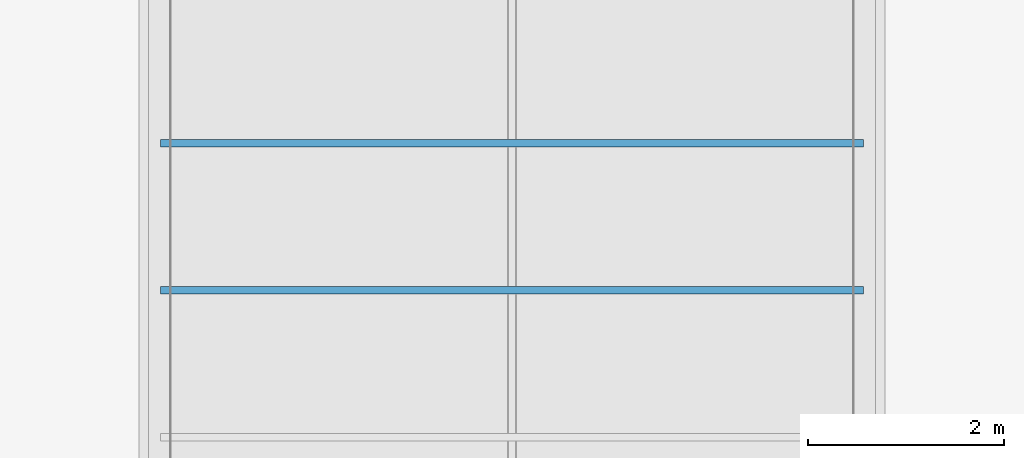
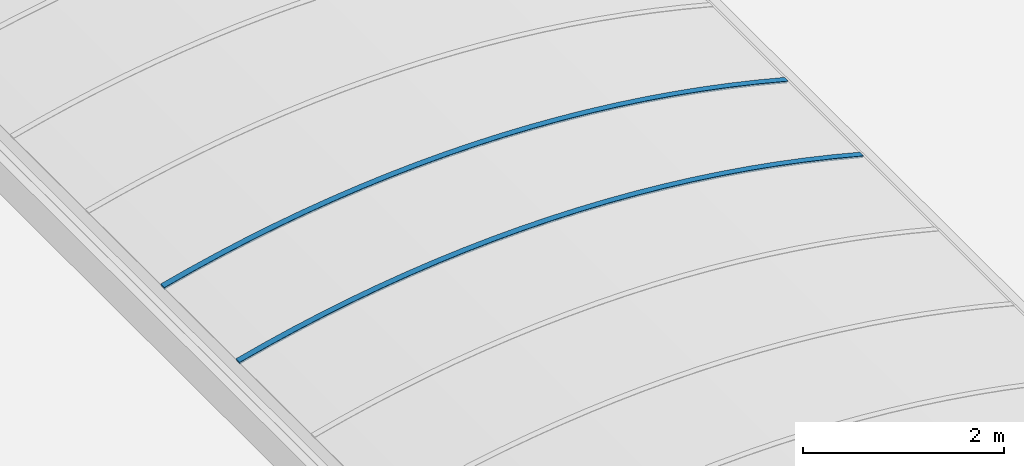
# One storey, part 44 of 81: 2 beams.
"""IFC2X3 building model written with IfcOpenShell, lengths in millimetres."""

import ifcopenshell
import ifcopenshell.guid

model = None  # the IFC model being written
_history = None  # IfcOwnerHistory: only IFC2X3 demands one
_inside = {}  # id of a spatial element -> (the spatial element, [elements in it])
_under = {}  # id of a project, library or spatial element -> (it, [spatial elements below it])
_declared = {}  # id of a project -> (the project, [libraries it declares])
_typed = {}  # id of a type object -> (the type object, [elements of that type])
_made_of = {}  # id of a material, layer set ... -> (it, [elements and type objects made of it])


def new_model(schema):
    """Start an empty IFC model of exactly this schema.

    Asked for "IFC4X3", IfcOpenShell would pick the latest addendum, in which some entities
    have other attributes; the version numbers below select the first issue.
    IFC2X3 requires an IfcOwnerHistory on every rooted entity: one is made here for all.
    """
    global model, _history
    if schema == "IFC4X3":
        model = ifcopenshell.file(schema_version=(4, 3, 0, 0))
    else:
        model = ifcopenshell.file(schema=schema)
    _inside.clear()
    _under.clear()
    _declared.clear()
    _typed.clear()
    _made_of.clear()
    _history = None
    if model.schema == "IFC2X3":
        org = make("IfcOrganization", Name="unknown")
        user = make(
            "IfcPersonAndOrganization",
            ThePerson=make("IfcPerson", FamilyName="unknown"),
            TheOrganization=org,
        )
        app = make(
            "IfcApplication",
            ApplicationDeveloper=org,
            Version="unknown",
            ApplicationFullName="unknown",
            ApplicationIdentifier="unknown",
        )
        _history = make(
            "IfcOwnerHistory",
            OwningUser=user,
            OwningApplication=app,
            ChangeAction="ADDED",
            CreationDate=0,
        )
    return model


def make(cls, **values):
    """One entity of the class cls with the attributes given. An attribute that is None is left unset."""
    return model.create_entity(
        cls, **{name: value for name, value in values.items() if value is not None}
    )


def entity(cls, *values):
    """Any entity or typed value of the class cls, its attributes in the order of the schema. None: left unset."""
    e = model.create_entity(cls)
    for i, value in enumerate(values):
        if value is not None:
            e[i] = value
    return e


def rooted(cls, **values):
    """An entity with a GlobalId (a new one), such as an element, a storey or a relation."""
    return make(cls, GlobalId=ifcopenshell.guid.new(), OwnerHistory=_history, **values)


def si_unit(unit_type, name, prefix=None):
    """IfcSIUnit, for example si_unit("LENGTHUNIT", "METRE", prefix="MILLI")."""
    return make("IfcSIUnit", UnitType=unit_type, Prefix=prefix, Name=name)


def converted_unit(unit_type, name, factor, base, dimensions=None, offset=None):
    """IfcConversionBasedUnit, such as the inch: factor (a typed value) times the base unit."""
    return make(
        "IfcConversionBasedUnit"
        if offset is None
        else "IfcConversionBasedUnitWithOffset",
        ConversionOffset=offset,
        Dimensions=None
        if dimensions is None
        else entity("IfcDimensionalExponents", *dimensions),
        UnitType=unit_type,
        Name=name,
        ConversionFactor=make(
            "IfcMeasureWithUnit", ValueComponent=factor, UnitComponent=base
        ),
    )


def derived_unit(unit_type, elements):
    """IfcDerivedUnit: a product of units, each with its exponent."""
    return make(
        "IfcDerivedUnit",
        Elements=[
            make("IfcDerivedUnitElement", Unit=unit, Exponent=power)
            for unit, power in elements
        ],
        UnitType=unit_type,
    )


def money_unit(currency):
    """IfcMonetaryUnit."""
    return make("IfcMonetaryUnit", Currency=currency)


def assignment(units):
    """IfcUnitAssignment: the units of a project."""
    return None if units is None else make("IfcUnitAssignment", Units=units)


def point(xyz):
    """IfcCartesianPoint."""
    return None if xyz is None else make("IfcCartesianPoint", Coordinates=xyz)


def direction(xyz):
    """IfcDirection."""
    return None if xyz is None else make("IfcDirection", DirectionRatios=xyz)


def frame(location, z_axis=None, x_axis=None):
    """IfcAxis2Placement3D, a coordinate frame: its origin and axes. An axis left out is left unset."""
    return make(
        "IfcAxis2Placement3D",
        Location=point(location),
        Axis=direction(z_axis),
        RefDirection=direction(x_axis),
    )


def origin_with_axes():
    """The frame at (0, 0, 0) with the z axis (0, 0, 1) and the x axis (1, 0, 0) written out."""
    return frame((0.0, 0.0, 0.0), z_axis=(0.0, 0.0, 1.0), x_axis=(1.0, 0.0, 0.0))


def place(relative_to, where):
    """IfcLocalPlacement: puts the frame where relative to a parent placement (None: the world)."""
    return make(
        "IfcLocalPlacement", PlacementRelTo=relative_to, RelativePlacement=where
    )


def context(
    kind, dimensions, precision=None, world=None, true_north=None, identifier=None
):
    """IfcGeometricRepresentationContext, for example the 3D "Model" context."""
    return make(
        "IfcGeometricRepresentationContext",
        ContextIdentifier=identifier,
        ContextType=kind,
        CoordinateSpaceDimension=dimensions,
        Precision=precision,
        WorldCoordinateSystem=world,
        TrueNorth=true_north,
    )


def subcontext(parent, identifier, kind, view, scale=None):
    """IfcGeometricRepresentationSubContext, for example "Body" below "Model"."""
    return make(
        "IfcGeometricRepresentationSubContext",
        ContextIdentifier=identifier,
        ContextType=kind,
        ParentContext=parent,
        TargetScale=scale,
        TargetView=view,
    )


def project(units=None, contexts=None):
    """IfcProject with its units and contexts."""
    return rooted(
        "IfcProject",
        Name="project",
        RepresentationContexts=contexts,
        UnitsInContext=assignment(units),
    )


def spatial(cls, under=None, at=None, **own):
    """A site, building, storey or space (cls), placed at a placement, below another one or the project."""
    s = rooted(cls, ObjectPlacement=at, **own)
    if under is not None:
        _under.setdefault(under.id(), (under, []))[1].append(s)
    return s


def faces_of(points, faces, orient=None, outer=None):
    """IfcFace entities. A face is a list of loops; a loop is a list of indices into points, from 0.

    orient and outer hold one flag for each loop. By default every Orientation is true, the
    first loop of a face is its IfcFaceOuterBound and the others are IfcFaceBound.
    """
    made = []
    for i, loops in enumerate(faces):
        bounds = []
        for j, loop in enumerate(loops):
            is_outer = j == 0 if outer is None else outer[i][j]
            bounds.append(
                make(
                    "IfcFaceOuterBound" if is_outer else "IfcFaceBound",
                    Bound=make("IfcPolyLoop", Polygon=[points[k] for k in loop]),
                    Orientation=True if orient is None else orient[i][j],
                )
            )
        made.append(make("IfcFace", Bounds=bounds))
    return made


def faceted_brep(points, faces, orient=None, outer=None, voids=None):
    """IfcFacetedBrep: a solid bounded by flat faces; with voids (closed shells), ...WithVoids."""
    shared = [point(p) for p in points]
    hull = make("IfcClosedShell", CfsFaces=faces_of(shared, faces, orient, outer))
    if voids is None:
        return make("IfcFacetedBrep", Outer=hull)
    return make(
        "IfcFacetedBrepWithVoids",
        Outer=hull,
        Voids=[
            make(cls, CfsFaces=faces_of(shared, fs, o, b)) for cls, fs, o, b in voids
        ],
    )


def shape(context_of_items, identifier, shape_type, items):
    """IfcShapeRepresentation: the items that make up one representation, for example the "Body"."""
    return make(
        "IfcShapeRepresentation",
        ContextOfItems=context_of_items,
        RepresentationIdentifier=identifier,
        RepresentationType=shape_type,
        Items=items,
    )


def material(Name=None, Category=None):
    """IfcMaterial."""
    return make("IfcMaterial", Name=Name, Category=Category)


def material_list(materials):
    """IfcMaterialList."""
    return make("IfcMaterialList", Materials=materials)


def made_of(thing, what):
    """Note that an element or type object is made of a material, layer set ...; save() writes the relation."""
    if what is not None:
        _made_of.setdefault(what.id(), (what, []))[1].append(thing)
    return thing


def type_object(cls, material=None, **own):
    """A type object (cls), such as IfcWallType, which elements share."""
    return made_of(rooted(cls, **own), material)


def element(
    cls,
    number,
    at=None,
    inside=None,
    cuts=None,
    type_object=None,
    material=None,
    context=None,
    identifier="Body",
    shape_type=None,
    held_by="IfcProductDefinitionShape",
    body=None,
    shapes=None,
    **own,
):
    """One element of the class cls, such as IfcWall. Its Tag is "e" and its number.

    at: its placement. inside: the storey or other place that contains it. cuts: it is an
    opening in that element (IfcRelVoidsElement). A single representation is given by context,
    identifier, shape_type and body (its items); several are given by shapes. held_by: the class
    of the entity that holds the representations. save() writes the other relations.
    """
    e = rooted(cls, Tag="e%d" % number, ObjectPlacement=at, **own)
    if body is not None:
        shapes = [shape(context, identifier, shape_type, body)]
    if shapes is not None:
        e.Representation = make(held_by, Representations=shapes)
    if inside is not None:
        _inside.setdefault(inside.id(), (inside, []))[1].append(e)
    if cuts is not None:
        rooted(
            "IfcRelVoidsElement", RelatingBuildingElement=cuts, RelatedOpeningElement=e
        )
    if type_object is not None:
        _typed.setdefault(type_object.id(), (type_object, []))[1].append(e)
    return made_of(e, material)


def aggregate(whole, parts):
    """IfcRelAggregates: a whole, such as a stair, and the parts it consists of."""
    return rooted("IfcRelAggregates", RelatingObject=whole, RelatedObjects=parts)


def save(model, path):
    """Write the relations noted so far, then the file.

    IfcRelAggregates (storeys below a building ...), IfcRelContainedInSpatialStructure (elements
    in a storey), IfcRelDefinesByType, IfcRelAssociatesMaterial and IfcRelDeclares: one each for
    every whole, place, type object, material and project.
    """
    for whole, parts in _under.values():
        aggregate(whole, parts)
    for where, things in _inside.values():
        rooted(
            "IfcRelContainedInSpatialStructure",
            RelatedElements=things,
            RelatingStructure=where,
        )
    for kind, things in _typed.values():
        rooted("IfcRelDefinesByType", RelatedObjects=things, RelatingType=kind)
    for what, things in _made_of.values():
        rooted("IfcRelAssociatesMaterial", RelatedObjects=things, RelatingMaterial=what)
    for by, libraries in _declared.values():
        rooted("IfcRelDeclares", RelatingContext=by, RelatedDefinitions=libraries)
    model.write(path)


model = new_model("IFC2X3")

# Units and contexts
model_context = context("Model", 3, precision=0.01, world=origin_with_axes(), true_north=direction((0.0, 1.0)))
body_context = subcontext(model_context, "Body", "Model", "MODEL_VIEW")
ifc_project = project(units=[si_unit("LENGTHUNIT", "METRE", prefix="MILLI"), si_unit("AREAUNIT", "SQUARE_METRE"), si_unit("VOLUMEUNIT", "CUBIC_METRE"), converted_unit("PLANEANGLEUNIT", "DEGREE", entity("IfcPlaneAngleMeasure", 0.0174532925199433), si_unit("PLANEANGLEUNIT", "RADIAN"), dimensions=[0, 0, 0, 0, 0, 0, 0]), money_unit("EUR"), converted_unit("TIMEUNIT", "Year", entity("IfcTimeMeasure", 31557600.0), si_unit("TIMEUNIT", "SECOND"), dimensions=[0, 0, 1, 0, 0, 0, 0]), si_unit("MASSUNIT", "GRAM", prefix="KILO"), si_unit("THERMODYNAMICTEMPERATUREUNIT", "DEGREE_CELSIUS"), si_unit("LUMINOUSINTENSITYUNIT", "LUMEN"), si_unit("ENERGYUNIT", "JOULE", prefix="MEGA"), derived_unit("THERMALCONDUCTANCEUNIT", [(si_unit("POWERUNIT", "WATT"), 1), (si_unit("LENGTHUNIT", "METRE"), -1), (si_unit("THERMODYNAMICTEMPERATUREUNIT", "KELVIN"), -1)]), derived_unit("SPECIFICHEATCAPACITYUNIT", [(si_unit("ENERGYUNIT", "JOULE"), 1), (si_unit("MASSUNIT", "GRAM", prefix="KILO"), -1), (si_unit("THERMODYNAMICTEMPERATUREUNIT", "KELVIN"), -1)]), derived_unit("MASSDENSITYUNIT", [(si_unit("MASSUNIT", "GRAM", prefix="KILO"), 1), (si_unit("VOLUMEUNIT", "CUBIC_METRE"), -1)])], contexts=[model_context])

# Site, building, storey
site_placement = place(None, origin_with_axes())
site = spatial("IfcSite", under=ifc_project, at=site_placement, Name="Site", CompositionType="ELEMENT")
building_placement = place(site_placement, origin_with_axes())
building = spatial("IfcBuilding", under=site, at=building_placement, Name="Naam gebouw", CompositionType="ELEMENT")
storey_placement = place(building_placement, frame((0.0, 0.0, 15320.0), z_axis=(0.0, 0.0, 1.0), x_axis=(1.0, 0.0, 0.0)))
storey = spatial("IfcBuildingStorey", under=building, at=storey_placement, Name="01 dak", CompositionType="ELEMENT", Elevation=15320.0)

# Beams
ifc_material = material(Name="Metaal - Aluminium AFW")
ifc_material_list = material_list([ifc_material, ifc_material])
beam_type = type_object("IfcBeamType", Name="lichtstraat polycarbonaat (constructie) 7420 x 670", PredefinedType="BEAM")
beam_1_placement = place(storey_placement, frame((46900.00000000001, 69862.50000000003, 559.9999999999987), z_axis=(0.0, 0.0, 1.0), x_axis=(1.0, 0.0, 0.0)))
element("IfcBeam", 1, at=beam_1_placement, inside=storey, type_object=beam_type, material=ifc_material_list, Name="Plafondafwerking 3", ObjectType="BEAM", context=body_context, shape_type="Brep", body=[
    faceted_brep([(-3532.999999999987, 0.0, 192.1385480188), (-3582.999999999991, 0.0, 179.000000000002), (-3582.999999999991, 75.00000000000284, 179.000000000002), (-3532.999999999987, 75.00000000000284, 192.1385480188), (-3264.746952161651, 0.0, 264.2761146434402), (-3584.237010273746, 0.0, 183.6724462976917), (-3527.999999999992, 0.0, 193.4415530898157), (-3213.322878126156, 0.0, 271.5053933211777), (-2896.922437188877, 0.0, 342.2614189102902), (-2578.968364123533, 0.0, 405.6716830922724), (-2259.631179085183, 0.0, 461.7021786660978), (-1939.082143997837, 0.0, 510.3228562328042), (-1617.493170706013, 0.0, 551.5076403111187), (-1295.036728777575, 0.0, 585.2344433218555), (-971.8857530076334, 0.0, 611.485177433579), (-648.2135506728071, 0.0, 630.2457642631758), (-324.1937085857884, 0.0, 641.5061424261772), (0.0, 0.0, 645.2602729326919), (324.1937085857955, 0.0, 641.5061424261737), (648.2135506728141, 0.0, 630.2457642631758), (971.8857530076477, 0.0, 611.4851774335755), (1295.036728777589, 0.0, 585.2344433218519), (1617.49317070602, 0.0, 551.5076403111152), (1939.082143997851, 0.0, 510.3228562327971), (2259.63117908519, 0.0, 461.7021786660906), (2578.968364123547, 0.0, 405.6716830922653), (2896.922437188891, 0.0, 342.2614189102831), (3213.322878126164, 0.0, 271.5053933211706), (3528.000000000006, 0.0, 193.4415530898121), (3528.000000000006, 0.0, 194.0000000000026), (3533.000000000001, 0.0, 194.0000000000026), (3533.000000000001, 0.0, 192.1385480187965), (3582.999999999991, 0.0, 179.000000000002), (3584.237010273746, 0.0, 183.6724462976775), (3264.746952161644, 0.0, 264.2761146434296), (2943.448443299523, 0.0, 337.3385317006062), (2620.519461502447, 0.0, 402.8192257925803), (2296.138887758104, 0.0, 460.6819250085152), (1970.486407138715, 0.0, 510.8945772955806), (1643.742409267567, 0.0, 553.4293682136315), (1316.087888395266, 0.0, 588.2627363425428), (987.7043431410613, 0.0, 615.3753863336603), (658.7736759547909, 0.0, 634.7522995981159), (329.4780923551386, 0.0, 646.3827426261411), (0.0, 0.0, 650.2602729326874), (-329.4780923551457, 0.0, 646.3827426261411), (-658.7736759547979, 0.0, 634.7522995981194), (-987.7043431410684, 0.0, 615.375386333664), (-1316.087888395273, 0.0, 588.2627363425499), (-1643.742409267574, 0.0, 553.4293682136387), (-1970.486407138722, 0.0, 510.8945772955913), (-2296.138887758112, 0.0, 460.6819250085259), (-2620.519461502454, 0.0, 402.8192257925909), (-2943.44844329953, 0.0, 337.3385317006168), (-3584.237010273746, 75.00000000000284, 183.6724462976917), (-3527.999999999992, 75.00000000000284, 193.4415530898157), (-3264.746952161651, 75.00000000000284, 264.2761146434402), (-2943.44844329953, 75.00000000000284, 337.3385317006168), (-2620.519461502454, 75.00000000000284, 402.8192257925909), (-2296.138887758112, 75.00000000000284, 460.6819250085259), (-1970.486407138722, 75.00000000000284, 510.8945772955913), (-1643.742409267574, 75.00000000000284, 553.4293682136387), (-1316.087888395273, 75.00000000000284, 588.2627363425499), (-987.7043431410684, 75.00000000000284, 615.375386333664), (-658.7736759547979, 75.00000000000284, 634.7522995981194), (-329.4780923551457, 75.00000000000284, 646.3827426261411), (0.0, 75.00000000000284, 650.2602729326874), (329.4780923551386, 75.00000000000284, 646.3827426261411), (658.7736759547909, 75.00000000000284, 634.7522995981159), (987.7043431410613, 75.00000000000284, 615.3753863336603), (1316.087888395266, 75.00000000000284, 588.2627363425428), (1643.742409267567, 75.00000000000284, 553.4293682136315), (1970.486407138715, 75.00000000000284, 510.8945772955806), (2296.138887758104, 75.00000000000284, 460.6819250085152), (2620.519461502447, 75.00000000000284, 402.8192257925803), (2943.448443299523, 75.00000000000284, 337.3385317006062), (3264.746952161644, 75.00000000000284, 264.2761146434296), (3584.237010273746, 75.00000000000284, 183.6724462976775), (3582.999999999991, 75.00000000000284, 179.000000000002), (3533.000000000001, 75.00000000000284, 192.1385480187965), (3533.000000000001, 75.00000000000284, 194.0000000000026), (3528.000000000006, 75.00000000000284, 194.0000000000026), (3528.000000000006, 75.00000000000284, 193.4415530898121), (3213.322878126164, 75.00000000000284, 271.5053933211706), (2896.922437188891, 75.00000000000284, 342.2614189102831), (2578.968364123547, 75.00000000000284, 405.6716830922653), (2259.63117908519, 75.00000000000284, 461.7021786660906), (1939.082143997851, 75.00000000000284, 510.3228562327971), (1617.49317070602, 75.00000000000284, 551.5076403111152), (1295.036728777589, 75.00000000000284, 585.2344433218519), (971.8857530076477, 75.00000000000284, 611.4851774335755), (648.2135506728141, 75.00000000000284, 630.2457642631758), (324.1937085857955, 75.00000000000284, 641.5061424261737), (0.0, 75.00000000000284, 645.2602729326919), (-324.1937085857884, 75.00000000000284, 641.5061424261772), (-648.2135506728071, 75.00000000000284, 630.2457642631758), (-971.8857530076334, 75.00000000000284, 611.485177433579), (-1295.036728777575, 75.00000000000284, 585.2344433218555), (-1617.493170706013, 75.00000000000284, 551.5076403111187), (-1939.082143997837, 75.00000000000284, 510.3228562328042), (-2259.631179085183, 75.00000000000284, 461.7021786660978), (-2578.968364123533, 75.00000000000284, 405.6716830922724), (-2896.922437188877, 75.00000000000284, 342.2614189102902), (-3213.322878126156, 75.00000000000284, 271.5053933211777)], [[[0, 1, 2, 3]], [[4, 5, 1, 0, 6, 7, 8, 9, 10, 11, 12, 13, 14, 15, 16, 17, 18, 19, 20, 21, 22, 23, 24, 25, 26, 27, 28, 29, 30, 31, 32, 33, 34, 35, 36, 37, 38, 39, 40, 41, 42, 43, 44, 45, 46, 47, 48, 49, 50, 51, 52, 53]], [[1, 5, 54, 2]], [[55, 3, 2, 54, 56, 57, 58, 59, 60, 61, 62, 63, 64, 65, 66, 67, 68, 69, 70, 71, 72, 73, 74, 75, 76, 77, 78, 79, 80, 81, 82, 83, 84, 85, 86, 87, 88, 89, 90, 91, 92, 93, 94, 95, 96, 97, 98, 99, 100, 101, 102, 103]], [[6, 0, 3, 55]], [[5, 4, 56, 54]], [[7, 6, 55, 103]], [[8, 7, 103, 102]], [[9, 8, 102, 101]], [[10, 9, 101, 100]], [[11, 10, 100, 99]], [[12, 11, 99, 98]], [[13, 12, 98, 97]], [[14, 13, 97, 96]], [[15, 14, 96, 95]], [[16, 15, 95, 94]], [[17, 16, 94, 93]], [[18, 17, 93, 92]], [[19, 18, 92, 91]], [[20, 19, 91, 90]], [[21, 20, 90, 89]], [[22, 21, 89, 88]], [[23, 22, 88, 87]], [[24, 23, 87, 86]], [[25, 24, 86, 85]], [[26, 25, 85, 84]], [[27, 26, 84, 83]], [[28, 27, 83, 82]], [[29, 28, 82, 81]], [[30, 29, 81, 80]], [[31, 30, 80, 79]], [[32, 31, 79, 78]], [[33, 32, 78, 77]], [[34, 33, 77, 76]], [[35, 34, 76, 75]], [[36, 35, 75, 74]], [[37, 36, 74, 73]], [[38, 37, 73, 72]], [[39, 38, 72, 71]], [[40, 39, 71, 70]], [[41, 40, 70, 69]], [[42, 41, 69, 68]], [[43, 42, 68, 67]], [[44, 43, 67, 66]], [[45, 44, 66, 65]], [[46, 45, 65, 64]], [[47, 46, 64, 63]], [[48, 47, 63, 62]], [[49, 48, 62, 61]], [[50, 49, 61, 60]], [[51, 50, 60, 59]], [[52, 51, 59, 58]], [[53, 52, 58, 57]], [[4, 53, 57, 56]]]),
    faceted_brep([(3269.271727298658, 75.00000000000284, 283.190243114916), (2947.542627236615, 75.00000000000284, 356.4574241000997), (2947.542627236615, 0.0, 356.4574241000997), (3269.271727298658, 0.0, 283.190243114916), (3589.18475202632, 75.00000000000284, 202.3611008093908), (3587.947861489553, 75.00000000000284, 197.6891067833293), (3528.000000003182, 75.00000000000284, 213.4415530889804), (3213.322878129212, 75.00000000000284, 291.505393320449), (2896.922437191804, 75.00000000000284, 362.2614189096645), (2578.968364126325, 75.00000000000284, 425.6716830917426), (2259.631179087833, 75.00000000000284, 481.7021786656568), (1939.082144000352, 75.00000000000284, 530.3228562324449), (1617.493170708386, 75.00000000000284, 571.5076403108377), (1295.036728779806, 75.00000000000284, 605.2344433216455), (971.8857530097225, 75.00000000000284, 631.4851774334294), (648.2135506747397, 75.00000000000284, 650.2457642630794), (324.1937085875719, 75.00000000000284, 661.5061424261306), (1.63424829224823e-09, 75.00000000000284, 665.2602729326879), (-324.1937085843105, 75.00000000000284, 661.5061424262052), (-648.2135506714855, 75.00000000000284, 650.2457642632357), (-971.8857530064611, 75.00000000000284, 631.4851774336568), (-1295.036728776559, 75.00000000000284, 605.2344433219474), (-1617.493170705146, 75.00000000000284, 571.5076403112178), (-1939.082143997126, 75.00000000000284, 530.3228562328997), (-2259.631179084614, 75.00000000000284, 481.7021786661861), (-2578.968364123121, 75.00000000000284, 425.6716830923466), (-2896.922437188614, 75.00000000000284, 362.2614189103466), (-3213.322878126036, 75.00000000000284, 291.5053933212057), (-3528.00000000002, 75.00000000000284, 213.4415530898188), (-3533.000000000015, 75.00000000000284, 212.1385480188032), (-3587.947861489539, 75.00000000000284, 197.6891067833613), (-3589.184752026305, 75.00000000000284, 202.3611008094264), (-3269.271727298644, 75.00000000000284, 283.1902431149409), (-2947.542627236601, 75.00000000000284, 356.4574241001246), (-2624.176171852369, 75.00000000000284, 422.1219439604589), (-2299.351990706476, 75.00000000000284, 480.1473261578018), (-1973.250523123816, 75.00000000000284, 530.5013376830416), (-1646.052917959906, 75.00000000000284, 573.156006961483), (-1317.940932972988, 75.00000000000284, 608.0876393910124), (-989.0968338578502, 75.00000000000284, 635.2768305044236), (-659.7032929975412, 75.00000000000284, 654.7084767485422), (-329.9432879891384, 75.00000000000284, 666.3717838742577), (0.0, 75.00000000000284, 670.2602729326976), (329.9432879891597, 75.00000000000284, 666.3717838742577), (659.7032929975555, 75.00000000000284, 654.7084767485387), (989.0968338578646, 75.00000000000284, 635.2768305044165), (1317.940932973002, 75.00000000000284, 608.0876393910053), (1646.052917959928, 75.00000000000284, 573.1560069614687), (1973.250523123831, 75.00000000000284, 530.5013376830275), (2299.351990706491, 75.00000000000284, 480.147326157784), (2624.176171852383, 75.00000000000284, 422.1219439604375), (2624.176171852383, 0.0, 422.1219439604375), (2299.351990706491, 0.0, 480.147326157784), (1973.250523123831, 0.0, 530.5013376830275), (1646.052917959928, 0.0, 573.1560069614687), (1317.940932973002, 0.0, 608.0876393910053), (989.0968338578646, 0.0, 635.2768305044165), (659.7032929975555, 0.0, 654.7084767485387), (329.9432879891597, 0.0, 666.3717838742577), (0.0, 0.0, 670.2602729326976), (-329.9432879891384, 0.0, 666.3717838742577), (-659.7032929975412, 0.0, 654.7084767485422), (-989.0968338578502, 0.0, 635.2768305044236), (-1317.940932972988, 0.0, 608.0876393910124), (-1646.052917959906, 0.0, 573.156006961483), (-1973.250523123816, 0.0, 530.5013376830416), (-2299.351990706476, 0.0, 480.1473261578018), (-2624.176171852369, 0.0, 422.1219439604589), (-2947.542627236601, 0.0, 356.4574241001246), (-3269.271727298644, 0.0, 283.1902431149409), (-3589.184752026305, 0.0, 202.3611008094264), (-3587.947861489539, 0.0, 197.6891067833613), (-3533.000000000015, 0.0, 212.1385480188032), (-3528.00000000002, 0.0, 213.4415530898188), (-3213.322878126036, 0.0, 291.5053933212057), (-2896.922437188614, 0.0, 362.2614189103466), (-2578.968364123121, 0.0, 425.6716830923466), (-2259.631179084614, 0.0, 481.7021786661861), (-1939.082143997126, 0.0, 530.3228562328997), (-1617.493170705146, 0.0, 571.5076403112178), (-1295.036728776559, 0.0, 605.2344433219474), (-971.8857530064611, 0.0, 631.4851774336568), (-648.2135506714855, 0.0, 650.2457642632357), (-324.1937085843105, 0.0, 661.5061424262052), (1.63424829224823e-09, 0.0, 665.2602729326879), (324.1937085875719, 0.0, 661.5061424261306), (648.2135506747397, 0.0, 650.2457642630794), (971.8857530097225, 0.0, 631.4851774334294), (1295.036728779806, 0.0, 605.2344433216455), (1617.493170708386, 0.0, 571.5076403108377), (1939.082144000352, 0.0, 530.3228562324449), (2259.631179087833, 0.0, 481.7021786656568), (2578.968364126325, 0.0, 425.6716830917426), (2896.922437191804, 0.0, 362.2614189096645), (3213.322878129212, 0.0, 291.505393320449), (3528.000000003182, 0.0, 213.4415530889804), (3587.947861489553, 0.0, 197.6891067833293), (3589.18475202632, 0.0, 202.3611008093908)], [[[0, 1, 2, 3]], [[0, 4, 5, 6, 7, 8, 9, 10, 11, 12, 13, 14, 15, 16, 17, 18, 19, 20, 21, 22, 23, 24, 25, 26, 27, 28, 29, 30, 31, 32, 33, 34, 35, 36, 37, 38, 39, 40, 41, 42, 43, 44, 45, 46, 47, 48, 49, 50, 1]], [[1, 50, 51, 2]], [[3, 2, 51, 52, 53, 54, 55, 56, 57, 58, 59, 60, 61, 62, 63, 64, 65, 66, 67, 68, 69, 70, 71, 72, 73, 74, 75, 76, 77, 78, 79, 80, 81, 82, 83, 84, 85, 86, 87, 88, 89, 90, 91, 92, 93, 94, 95, 96, 97]], [[4, 0, 3, 97]], [[5, 4, 97, 96]], [[6, 5, 96, 95]], [[7, 6, 95, 94]], [[8, 7, 94, 93]], [[9, 8, 93, 92]], [[10, 9, 92, 91]], [[11, 10, 91, 90]], [[12, 11, 90, 89]], [[13, 12, 89, 88]], [[14, 13, 88, 87]], [[15, 14, 87, 86]], [[16, 15, 86, 85]], [[17, 16, 85, 84]], [[18, 17, 84, 83]], [[19, 18, 83, 82]], [[20, 19, 82, 81]], [[21, 20, 81, 80]], [[22, 21, 80, 79]], [[23, 22, 79, 78]], [[24, 23, 78, 77]], [[25, 24, 77, 76]], [[26, 25, 76, 75]], [[27, 26, 75, 74]], [[28, 27, 74, 73]], [[29, 28, 73, 72]], [[30, 29, 72, 71]], [[31, 30, 71, 70]], [[32, 31, 70, 69]], [[33, 32, 69, 68]], [[34, 33, 68, 67]], [[35, 34, 67, 66]], [[36, 35, 66, 65]], [[37, 36, 65, 64]], [[38, 37, 64, 63]], [[39, 38, 63, 62]], [[40, 39, 62, 61]], [[41, 40, 61, 60]], [[42, 41, 60, 59]], [[43, 42, 59, 58]], [[44, 43, 58, 57]], [[45, 44, 57, 56]], [[46, 45, 56, 55]], [[47, 46, 55, 54]], [[48, 47, 54, 53]], [[49, 48, 53, 52]], [[50, 49, 52, 51]]]),
])
beam_2_placement = place(storey_placement, frame((46900.00000000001, 71362.50000000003, 559.9999999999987), z_axis=(0.0, 0.0, 1.0), x_axis=(1.0, 0.0, 0.0)))
element("IfcBeam", 2, at=beam_2_placement, inside=storey, type_object=beam_type, material=ifc_material_list, Name="Plafondafwerking 3", ObjectType="BEAM", context=body_context, shape_type="Brep", body=[
    faceted_brep([(-3532.999999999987, 0.0, 192.1385480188), (-3582.999999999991, 0.0, 179.000000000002), (-3582.999999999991, 75.00000000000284, 179.000000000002), (-3532.999999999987, 75.00000000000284, 192.1385480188), (-3264.746952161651, 0.0, 264.2761146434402), (-3584.237010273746, 0.0, 183.6724462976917), (-3527.999999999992, 0.0, 193.4415530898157), (-3213.322878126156, 0.0, 271.5053933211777), (-2896.922437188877, 0.0, 342.2614189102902), (-2578.968364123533, 0.0, 405.6716830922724), (-2259.631179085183, 0.0, 461.7021786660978), (-1939.082143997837, 0.0, 510.3228562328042), (-1617.493170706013, 0.0, 551.5076403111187), (-1295.036728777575, 0.0, 585.2344433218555), (-971.8857530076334, 0.0, 611.485177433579), (-648.2135506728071, 0.0, 630.2457642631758), (-324.1937085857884, 0.0, 641.5061424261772), (0.0, 0.0, 645.2602729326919), (324.1937085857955, 0.0, 641.5061424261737), (648.2135506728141, 0.0, 630.2457642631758), (971.8857530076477, 0.0, 611.4851774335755), (1295.036728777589, 0.0, 585.2344433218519), (1617.49317070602, 0.0, 551.5076403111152), (1939.082143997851, 0.0, 510.3228562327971), (2259.63117908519, 0.0, 461.7021786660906), (2578.968364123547, 0.0, 405.6716830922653), (2896.922437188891, 0.0, 342.2614189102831), (3213.322878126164, 0.0, 271.5053933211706), (3528.000000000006, 0.0, 193.4415530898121), (3528.000000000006, 0.0, 194.0000000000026), (3533.000000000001, 0.0, 194.0000000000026), (3533.000000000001, 0.0, 192.1385480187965), (3582.999999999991, 0.0, 179.000000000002), (3584.237010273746, 0.0, 183.6724462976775), (3264.746952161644, 0.0, 264.2761146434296), (2943.448443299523, 0.0, 337.3385317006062), (2620.519461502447, 0.0, 402.8192257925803), (2296.138887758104, 0.0, 460.6819250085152), (1970.486407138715, 0.0, 510.8945772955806), (1643.742409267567, 0.0, 553.4293682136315), (1316.087888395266, 0.0, 588.2627363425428), (987.7043431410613, 0.0, 615.3753863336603), (658.7736759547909, 0.0, 634.7522995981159), (329.4780923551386, 0.0, 646.3827426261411), (0.0, 0.0, 650.2602729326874), (-329.4780923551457, 0.0, 646.3827426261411), (-658.7736759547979, 0.0, 634.7522995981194), (-987.7043431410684, 0.0, 615.375386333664), (-1316.087888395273, 0.0, 588.2627363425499), (-1643.742409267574, 0.0, 553.4293682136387), (-1970.486407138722, 0.0, 510.8945772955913), (-2296.138887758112, 0.0, 460.6819250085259), (-2620.519461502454, 0.0, 402.8192257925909), (-2943.44844329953, 0.0, 337.3385317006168), (-3584.237010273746, 75.00000000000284, 183.6724462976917), (-3527.999999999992, 75.00000000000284, 193.4415530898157), (-3264.746952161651, 75.00000000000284, 264.2761146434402), (-2943.44844329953, 75.00000000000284, 337.3385317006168), (-2620.519461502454, 75.00000000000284, 402.8192257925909), (-2296.138887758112, 75.00000000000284, 460.6819250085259), (-1970.486407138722, 75.00000000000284, 510.8945772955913), (-1643.742409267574, 75.00000000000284, 553.4293682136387), (-1316.087888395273, 75.00000000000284, 588.2627363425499), (-987.7043431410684, 75.00000000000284, 615.375386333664), (-658.7736759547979, 75.00000000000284, 634.7522995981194), (-329.4780923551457, 75.00000000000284, 646.3827426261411), (0.0, 75.00000000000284, 650.2602729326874), (329.4780923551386, 75.00000000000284, 646.3827426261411), (658.7736759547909, 75.00000000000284, 634.7522995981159), (987.7043431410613, 75.00000000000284, 615.3753863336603), (1316.087888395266, 75.00000000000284, 588.2627363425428), (1643.742409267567, 75.00000000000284, 553.4293682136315), (1970.486407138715, 75.00000000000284, 510.8945772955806), (2296.138887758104, 75.00000000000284, 460.6819250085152), (2620.519461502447, 75.00000000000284, 402.8192257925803), (2943.448443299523, 75.00000000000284, 337.3385317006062), (3264.746952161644, 75.00000000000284, 264.2761146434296), (3584.237010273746, 75.00000000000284, 183.6724462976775), (3582.999999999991, 75.00000000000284, 179.000000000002), (3533.000000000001, 75.00000000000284, 192.1385480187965), (3533.000000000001, 75.00000000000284, 194.0000000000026), (3528.000000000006, 75.00000000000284, 194.0000000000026), (3528.000000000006, 75.00000000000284, 193.4415530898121), (3213.322878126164, 75.00000000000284, 271.5053933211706), (2896.922437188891, 75.00000000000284, 342.2614189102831), (2578.968364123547, 75.00000000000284, 405.6716830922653), (2259.63117908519, 75.00000000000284, 461.7021786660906), (1939.082143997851, 75.00000000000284, 510.3228562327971), (1617.49317070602, 75.00000000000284, 551.5076403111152), (1295.036728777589, 75.00000000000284, 585.2344433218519), (971.8857530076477, 75.00000000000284, 611.4851774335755), (648.2135506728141, 75.00000000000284, 630.2457642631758), (324.1937085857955, 75.00000000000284, 641.5061424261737), (0.0, 75.00000000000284, 645.2602729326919), (-324.1937085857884, 75.00000000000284, 641.5061424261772), (-648.2135506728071, 75.00000000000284, 630.2457642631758), (-971.8857530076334, 75.00000000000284, 611.485177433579), (-1295.036728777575, 75.00000000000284, 585.2344433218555), (-1617.493170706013, 75.00000000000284, 551.5076403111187), (-1939.082143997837, 75.00000000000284, 510.3228562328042), (-2259.631179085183, 75.00000000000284, 461.7021786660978), (-2578.968364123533, 75.00000000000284, 405.6716830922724), (-2896.922437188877, 75.00000000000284, 342.2614189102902), (-3213.322878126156, 75.00000000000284, 271.5053933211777)], [[[0, 1, 2, 3]], [[4, 5, 1, 0, 6, 7, 8, 9, 10, 11, 12, 13, 14, 15, 16, 17, 18, 19, 20, 21, 22, 23, 24, 25, 26, 27, 28, 29, 30, 31, 32, 33, 34, 35, 36, 37, 38, 39, 40, 41, 42, 43, 44, 45, 46, 47, 48, 49, 50, 51, 52, 53]], [[1, 5, 54, 2]], [[55, 3, 2, 54, 56, 57, 58, 59, 60, 61, 62, 63, 64, 65, 66, 67, 68, 69, 70, 71, 72, 73, 74, 75, 76, 77, 78, 79, 80, 81, 82, 83, 84, 85, 86, 87, 88, 89, 90, 91, 92, 93, 94, 95, 96, 97, 98, 99, 100, 101, 102, 103]], [[6, 0, 3, 55]], [[5, 4, 56, 54]], [[7, 6, 55, 103]], [[8, 7, 103, 102]], [[9, 8, 102, 101]], [[10, 9, 101, 100]], [[11, 10, 100, 99]], [[12, 11, 99, 98]], [[13, 12, 98, 97]], [[14, 13, 97, 96]], [[15, 14, 96, 95]], [[16, 15, 95, 94]], [[17, 16, 94, 93]], [[18, 17, 93, 92]], [[19, 18, 92, 91]], [[20, 19, 91, 90]], [[21, 20, 90, 89]], [[22, 21, 89, 88]], [[23, 22, 88, 87]], [[24, 23, 87, 86]], [[25, 24, 86, 85]], [[26, 25, 85, 84]], [[27, 26, 84, 83]], [[28, 27, 83, 82]], [[29, 28, 82, 81]], [[30, 29, 81, 80]], [[31, 30, 80, 79]], [[32, 31, 79, 78]], [[33, 32, 78, 77]], [[34, 33, 77, 76]], [[35, 34, 76, 75]], [[36, 35, 75, 74]], [[37, 36, 74, 73]], [[38, 37, 73, 72]], [[39, 38, 72, 71]], [[40, 39, 71, 70]], [[41, 40, 70, 69]], [[42, 41, 69, 68]], [[43, 42, 68, 67]], [[44, 43, 67, 66]], [[45, 44, 66, 65]], [[46, 45, 65, 64]], [[47, 46, 64, 63]], [[48, 47, 63, 62]], [[49, 48, 62, 61]], [[50, 49, 61, 60]], [[51, 50, 60, 59]], [[52, 51, 59, 58]], [[53, 52, 58, 57]], [[4, 53, 57, 56]]]),
    faceted_brep([(3269.271727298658, 75.00000000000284, 283.190243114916), (2947.542627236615, 75.00000000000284, 356.4574241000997), (2947.542627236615, 0.0, 356.4574241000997), (3269.271727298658, 0.0, 283.190243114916), (3589.18475202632, 75.00000000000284, 202.3611008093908), (3587.947861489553, 75.00000000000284, 197.6891067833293), (3528.000000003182, 75.00000000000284, 213.4415530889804), (3213.322878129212, 75.00000000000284, 291.505393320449), (2896.922437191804, 75.00000000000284, 362.2614189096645), (2578.968364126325, 75.00000000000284, 425.6716830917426), (2259.631179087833, 75.00000000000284, 481.7021786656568), (1939.082144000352, 75.00000000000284, 530.3228562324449), (1617.493170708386, 75.00000000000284, 571.5076403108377), (1295.036728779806, 75.00000000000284, 605.2344433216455), (971.8857530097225, 75.00000000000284, 631.4851774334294), (648.2135506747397, 75.00000000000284, 650.2457642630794), (324.1937085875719, 75.00000000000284, 661.5061424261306), (1.63424829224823e-09, 75.00000000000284, 665.2602729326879), (-324.1937085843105, 75.00000000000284, 661.5061424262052), (-648.2135506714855, 75.00000000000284, 650.2457642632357), (-971.8857530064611, 75.00000000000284, 631.4851774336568), (-1295.036728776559, 75.00000000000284, 605.2344433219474), (-1617.493170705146, 75.00000000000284, 571.5076403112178), (-1939.082143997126, 75.00000000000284, 530.3228562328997), (-2259.631179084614, 75.00000000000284, 481.7021786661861), (-2578.968364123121, 75.00000000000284, 425.6716830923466), (-2896.922437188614, 75.00000000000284, 362.2614189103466), (-3213.322878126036, 75.00000000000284, 291.5053933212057), (-3528.00000000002, 75.00000000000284, 213.4415530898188), (-3533.000000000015, 75.00000000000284, 212.1385480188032), (-3587.947861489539, 75.00000000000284, 197.6891067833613), (-3589.184752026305, 75.00000000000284, 202.3611008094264), (-3269.271727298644, 75.00000000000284, 283.1902431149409), (-2947.542627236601, 75.00000000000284, 356.4574241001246), (-2624.176171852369, 75.00000000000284, 422.1219439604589), (-2299.351990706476, 75.00000000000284, 480.1473261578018), (-1973.250523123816, 75.00000000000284, 530.5013376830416), (-1646.052917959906, 75.00000000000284, 573.156006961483), (-1317.940932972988, 75.00000000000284, 608.0876393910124), (-989.0968338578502, 75.00000000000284, 635.2768305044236), (-659.7032929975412, 75.00000000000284, 654.7084767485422), (-329.9432879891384, 75.00000000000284, 666.3717838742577), (0.0, 75.00000000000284, 670.2602729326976), (329.9432879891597, 75.00000000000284, 666.3717838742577), (659.7032929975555, 75.00000000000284, 654.7084767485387), (989.0968338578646, 75.00000000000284, 635.2768305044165), (1317.940932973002, 75.00000000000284, 608.0876393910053), (1646.052917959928, 75.00000000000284, 573.1560069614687), (1973.250523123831, 75.00000000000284, 530.5013376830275), (2299.351990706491, 75.00000000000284, 480.147326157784), (2624.176171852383, 75.00000000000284, 422.1219439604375), (2624.176171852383, 0.0, 422.1219439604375), (2299.351990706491, 0.0, 480.147326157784), (1973.250523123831, 0.0, 530.5013376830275), (1646.052917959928, 0.0, 573.1560069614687), (1317.940932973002, 0.0, 608.0876393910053), (989.0968338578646, 0.0, 635.2768305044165), (659.7032929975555, 0.0, 654.7084767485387), (329.9432879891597, 0.0, 666.3717838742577), (0.0, 0.0, 670.2602729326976), (-329.9432879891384, 0.0, 666.3717838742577), (-659.7032929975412, 0.0, 654.7084767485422), (-989.0968338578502, 0.0, 635.2768305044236), (-1317.940932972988, 0.0, 608.0876393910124), (-1646.052917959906, 0.0, 573.156006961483), (-1973.250523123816, 0.0, 530.5013376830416), (-2299.351990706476, 0.0, 480.1473261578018), (-2624.176171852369, 0.0, 422.1219439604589), (-2947.542627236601, 0.0, 356.4574241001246), (-3269.271727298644, 0.0, 283.1902431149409), (-3589.184752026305, 0.0, 202.3611008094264), (-3587.947861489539, 0.0, 197.6891067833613), (-3533.000000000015, 0.0, 212.1385480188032), (-3528.00000000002, 0.0, 213.4415530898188), (-3213.322878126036, 0.0, 291.5053933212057), (-2896.922437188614, 0.0, 362.2614189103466), (-2578.968364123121, 0.0, 425.6716830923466), (-2259.631179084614, 0.0, 481.7021786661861), (-1939.082143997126, 0.0, 530.3228562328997), (-1617.493170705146, 0.0, 571.5076403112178), (-1295.036728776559, 0.0, 605.2344433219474), (-971.8857530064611, 0.0, 631.4851774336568), (-648.2135506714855, 0.0, 650.2457642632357), (-324.1937085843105, 0.0, 661.5061424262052), (1.63424829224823e-09, 0.0, 665.2602729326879), (324.1937085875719, 0.0, 661.5061424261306), (648.2135506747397, 0.0, 650.2457642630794), (971.8857530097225, 0.0, 631.4851774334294), (1295.036728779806, 0.0, 605.2344433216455), (1617.493170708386, 0.0, 571.5076403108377), (1939.082144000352, 0.0, 530.3228562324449), (2259.631179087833, 0.0, 481.7021786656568), (2578.968364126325, 0.0, 425.6716830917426), (2896.922437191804, 0.0, 362.2614189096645), (3213.322878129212, 0.0, 291.505393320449), (3528.000000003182, 0.0, 213.4415530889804), (3587.947861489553, 0.0, 197.6891067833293), (3589.18475202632, 0.0, 202.3611008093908)], [[[0, 1, 2, 3]], [[0, 4, 5, 6, 7, 8, 9, 10, 11, 12, 13, 14, 15, 16, 17, 18, 19, 20, 21, 22, 23, 24, 25, 26, 27, 28, 29, 30, 31, 32, 33, 34, 35, 36, 37, 38, 39, 40, 41, 42, 43, 44, 45, 46, 47, 48, 49, 50, 1]], [[1, 50, 51, 2]], [[3, 2, 51, 52, 53, 54, 55, 56, 57, 58, 59, 60, 61, 62, 63, 64, 65, 66, 67, 68, 69, 70, 71, 72, 73, 74, 75, 76, 77, 78, 79, 80, 81, 82, 83, 84, 85, 86, 87, 88, 89, 90, 91, 92, 93, 94, 95, 96, 97]], [[4, 0, 3, 97]], [[5, 4, 97, 96]], [[6, 5, 96, 95]], [[7, 6, 95, 94]], [[8, 7, 94, 93]], [[9, 8, 93, 92]], [[10, 9, 92, 91]], [[11, 10, 91, 90]], [[12, 11, 90, 89]], [[13, 12, 89, 88]], [[14, 13, 88, 87]], [[15, 14, 87, 86]], [[16, 15, 86, 85]], [[17, 16, 85, 84]], [[18, 17, 84, 83]], [[19, 18, 83, 82]], [[20, 19, 82, 81]], [[21, 20, 81, 80]], [[22, 21, 80, 79]], [[23, 22, 79, 78]], [[24, 23, 78, 77]], [[25, 24, 77, 76]], [[26, 25, 76, 75]], [[27, 26, 75, 74]], [[28, 27, 74, 73]], [[29, 28, 73, 72]], [[30, 29, 72, 71]], [[31, 30, 71, 70]], [[32, 31, 70, 69]], [[33, 32, 69, 68]], [[34, 33, 68, 67]], [[35, 34, 67, 66]], [[36, 35, 66, 65]], [[37, 36, 65, 64]], [[38, 37, 64, 63]], [[39, 38, 63, 62]], [[40, 39, 62, 61]], [[41, 40, 61, 60]], [[42, 41, 60, 59]], [[43, 42, 59, 58]], [[44, 43, 58, 57]], [[45, 44, 57, 56]], [[46, 45, 56, 55]], [[47, 46, 55, 54]], [[48, 47, 54, 53]], [[49, 48, 53, 52]], [[50, 49, 52, 51]]]),
])

save(model, "model.ifc")
